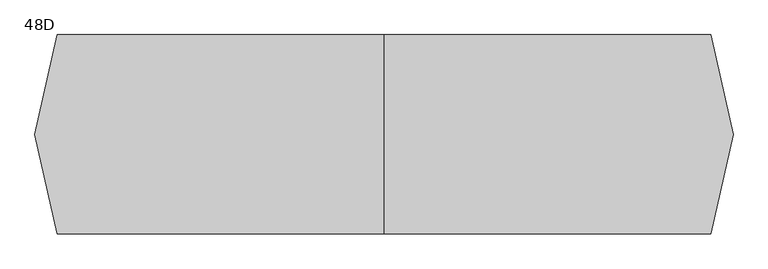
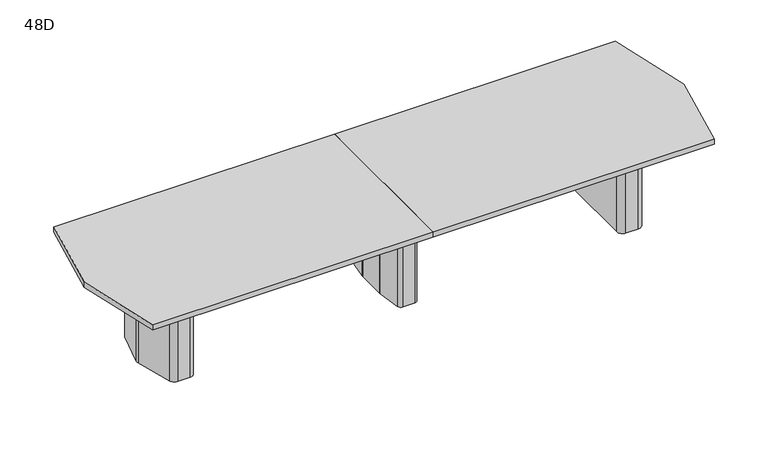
"""IFC4 building model written with IfcOpenShell, lengths in millimetres: furniture geometry, Coalesse_AM_Table_Conference_ETable2_Faceted_14ft_ThreeBase : 48D."""

from ifc_helpers import new_model, si_unit, frame, origin, place, context, project, spatial, polyline, circle_curve, outline, extrude, source, transform, mapped, element, save
from ifc_brep_helpers import plane_surface, cylinder_surface, revolved_surface, advanced_brep


def furniture_48d_33020ef1(model_context):
    return source(origin(), model_context, "Body", "SolidModel", [
        advanced_brep(
        [(35.71875, 206.375, 3.175), (10.31875, 231.775, 3.175), (-10.31875, 231.775, 3.175), (-35.71875, 206.375, 3.175), (-35.71875, -206.375, 3.175), (-10.31875, -231.775, 3.175), (10.31875, -231.775, 3.175), (35.71875, -206.375, 3.175), (-61.11875, 206.375, 0.0), (-10.31875, 257.175, 0.0), (10.31875, 257.175, 0.0), (61.11875, 206.375, 0.0), (61.11875, -206.375, 0.0), (10.31875, -257.175, 0.0), (-10.31875, -257.175, 0.0), (-61.11875, -206.375, 0.0), (-61.11875, -206.375, 3.175), (-61.11875, 206.375, 3.175), (-10.31875, -257.175, 3.175), (10.31875, -257.175, 3.175), (61.11875, -206.375, 3.175), (61.11875, 206.375, 3.175), (10.31875, 257.175, 3.175), (-10.31875, 257.175, 3.175), (-92.6215974, 106.2976848, 698.5), (-92.86875, 102.7629613, 698.5), (-92.86875, -102.7629613, 698.5), (-92.6215974, -106.2976848, 698.5), (-67.7988375, -282.9347235, 698.5), (-42.6459902, -304.8, 698.5), (42.6459902, -304.8, 698.5), (67.7988375, -282.9347235, 698.5), (92.6215974, -106.2976848, 698.5), (92.86875, -102.7629613, 698.5), (92.86875, 102.7629613, 698.5), (92.6215974, 106.2976848, 698.5), (67.7988375, 282.9347235, 698.5), (42.6459902, 304.8, 698.5), (-42.6459902, 304.8, 698.5), (-67.7988375, 282.9347235, 698.5), (10.31875, 231.775, 698.5), (35.71875, 206.375, 698.5), (35.71875, -206.375, 698.5), (10.31875, -231.775, 698.5), (-10.31875, -231.775, 698.5), (-35.71875, -206.375, 698.5), (-35.71875, 206.375, 698.5), (-10.31875, 231.775, 698.5), (-92.6215974, 106.2976848, 3.175), (-67.7988375, 282.9347235, 3.175), (-42.6459902, 304.8, 3.175), (42.6459902, 304.8, 3.175), (67.7988375, 282.9347235, 3.175), (92.6215974, 106.2976848, 3.175), (92.86875, 102.7629613, 3.175), (92.86875, -102.7629613, 3.175), (92.6215974, -106.2976848, 3.175), (67.7988375, -282.9347235, 3.175), (42.6459902, -304.8, 3.175), (-42.6459902, -304.8, 3.175), (-67.7988375, -282.9347235, 3.175), (-92.6215974, -106.2976848, 3.175), (-92.86875, -102.7629613, 3.175), (-92.86875, 102.7629613, 3.175)],
        [
            (0, 1, circle_curve(frame((10.31875, 206.375, 3.175), z_axis=(0.0, 0.0, 1.0), x_axis=(1.0, 0.0, 0.0)), 25.4)),
            (1, 2),
            (2, 3, circle_curve(frame((-10.31875, 206.375, 3.175), z_axis=(0.0, 0.0, 1.0), x_axis=(1.0, 0.0, 0.0)), 25.4)),
            (3, 4),
            (4, 5, circle_curve(frame((-10.31875, -206.375, 3.175), z_axis=(0.0, 0.0, 1.0), x_axis=(1.0, 0.0, 0.0)), 25.4)),
            (5, 6),
            (6, 7, circle_curve(frame((10.31875, -206.375, 3.175), z_axis=(0.0, 0.0, 1.0), x_axis=(1.0, 0.0, 0.0)), 25.4)),
            (7, 0),
            (8, 9, circle_curve(frame((-10.31875, 206.375, 0.0), z_axis=(0.0, 0.0, -1.0), x_axis=(1.0, 0.0, 0.0)), 50.8)),
            (9, 10),
            (10, 11, circle_curve(frame((10.31875, 206.375, 0.0), z_axis=(0.0, 0.0, -1.0), x_axis=(1.0, 0.0, 0.0)), 50.8)),
            (11, 12),
            (12, 13, circle_curve(frame((10.31875, -206.375, 0.0), z_axis=(0.0, 0.0, -1.0), x_axis=(1.0, 0.0, 0.0)), 50.8)),
            (13, 14),
            (14, 15, circle_curve(frame((-10.31875, -206.375, 0.0), z_axis=(0.0, 0.0, -1.0), x_axis=(1.0, 0.0, 0.0)), 50.8)),
            (15, 8),
            (15, 16),
            (16, 17),
            (17, 8),
            (14, 18),
            (18, 16, circle_curve(frame((-10.31875, -206.375, 3.175), z_axis=(0.0, 0.0, -1.0), x_axis=(1.0, 0.0, 0.0)), 50.8)),
            (13, 19),
            (19, 18),
            (12, 20),
            (20, 19, circle_curve(frame((10.31875, -206.375, 3.175), z_axis=(0.0, 0.0, -1.0), x_axis=(1.0, 0.0, 0.0)), 50.8)),
            (11, 21),
            (21, 20),
            (10, 22),
            (22, 21, circle_curve(frame((10.31875, 206.375, 3.175), z_axis=(0.0, 0.0, -1.0), x_axis=(1.0, 0.0, 0.0)), 50.8)),
            (9, 23),
            (23, 22),
            (17, 23, circle_curve(frame((-10.31875, 206.375, 3.175), z_axis=(0.0, 0.0, -1.0), x_axis=(1.0, 0.0, 0.0)), 50.8)),
            (24, 25, circle_curve(frame((-67.46875, 102.7629613, 698.5), z_axis=(0.0, 0.0, 1.0), x_axis=(1.0, 0.0, 0.0)), 25.4)),
            (25, 26),
            (26, 27, circle_curve(frame((-67.46875, -102.7629613, 698.5), z_axis=(0.0, 0.0, 1.0), x_axis=(1.0, 0.0, 0.0)), 25.4)),
            (27, 28),
            (28, 29, circle_curve(frame((-42.6459902, -279.4, 698.5), z_axis=(0.0, 0.0, 1.0), x_axis=(1.0, 0.0, 0.0)), 25.4)),
            (29, 30),
            (30, 31, circle_curve(frame((42.6459902, -279.4, 698.5), z_axis=(0.0, 0.0, 1.0), x_axis=(1.0, 0.0, 0.0)), 25.4)),
            (31, 32),
            (32, 33, circle_curve(frame((67.46875, -102.7629613, 698.5), z_axis=(0.0, 0.0, 1.0), x_axis=(1.0, 0.0, 0.0)), 25.4)),
            (33, 34),
            (34, 35, circle_curve(frame((67.46875, 102.7629613, 698.5), z_axis=(0.0, 0.0, 1.0), x_axis=(1.0, 0.0, 0.0)), 25.4)),
            (35, 36),
            (36, 37, circle_curve(frame((42.6459902, 279.4, 698.5), z_axis=(0.0, 0.0, 1.0), x_axis=(1.0, 0.0, 0.0)), 25.4)),
            (37, 38),
            (38, 39, circle_curve(frame((-42.6459902, 279.4, 698.5), z_axis=(0.0, 0.0, 1.0), x_axis=(1.0, 0.0, 0.0)), 25.4)),
            (39, 24),
            (40, 41, circle_curve(frame((10.31875, 206.375, 698.5), z_axis=(0.0, 0.0, -1.0), x_axis=(1.0, 0.0, 0.0)), 25.4)),
            (41, 42),
            (42, 43, circle_curve(frame((10.31875, -206.375, 698.5), z_axis=(0.0, 0.0, -1.0), x_axis=(1.0, 0.0, 0.0)), 25.4)),
            (43, 44),
            (44, 45, circle_curve(frame((-10.31875, -206.375, 698.5), z_axis=(0.0, 0.0, -1.0), x_axis=(1.0, 0.0, 0.0)), 25.4)),
            (45, 46),
            (46, 47, circle_curve(frame((-10.31875, 206.375, 698.5), z_axis=(0.0, 0.0, -1.0), x_axis=(1.0, 0.0, 0.0)), 25.4)),
            (47, 40),
            (48, 49),
            (49, 50, circle_curve(frame((-42.6459902, 279.4, 3.175), z_axis=(0.0, 0.0, -1.0), x_axis=(1.0, 0.0, 0.0)), 25.4)),
            (50, 51),
            (51, 52, circle_curve(frame((42.6459902, 279.4, 3.175), z_axis=(0.0, 0.0, -1.0), x_axis=(1.0, 0.0, 0.0)), 25.4)),
            (52, 53),
            (53, 54, circle_curve(frame((67.46875, 102.7629613, 3.175), z_axis=(0.0, 0.0, -1.0), x_axis=(1.0, 0.0, 0.0)), 25.4)),
            (54, 55),
            (55, 56, circle_curve(frame((67.46875, -102.7629613, 3.175), z_axis=(0.0, 0.0, -1.0), x_axis=(1.0, 0.0, 0.0)), 25.4)),
            (56, 57),
            (57, 58, circle_curve(frame((42.6459902, -279.4, 3.175), z_axis=(0.0, 0.0, -1.0), x_axis=(1.0, 0.0, 0.0)), 25.4)),
            (58, 59),
            (59, 60, circle_curve(frame((-42.6459902, -279.4, 3.175), z_axis=(0.0, 0.0, -1.0), x_axis=(1.0, 0.0, 0.0)), 25.4)),
            (60, 61),
            (61, 62, circle_curve(frame((-67.46875, -102.7629613, 3.175), z_axis=(0.0, 0.0, -1.0), x_axis=(1.0, 0.0, 0.0)), 25.4)),
            (62, 63),
            (63, 48, circle_curve(frame((-67.46875, 102.7629613, 3.175), z_axis=(0.0, 0.0, -1.0), x_axis=(1.0, 0.0, 0.0)), 25.4)),
            (24, 48),
            (63, 25),
            (62, 26),
            (61, 27),
            (60, 28),
            (59, 29),
            (58, 30),
            (57, 31),
            (56, 32),
            (55, 33),
            (54, 34),
            (53, 35),
            (52, 36),
            (51, 37),
            (50, 38),
            (49, 39),
            (40, 1),
            (0, 41),
            (7, 42),
            (6, 43),
            (5, 44),
            (4, 45),
            (3, 46),
            (2, 47),
        ],
        [
            plane_surface(frame((-61.11875, -206.375, 3.175), z_axis=(0.0, 0.0, 1.0), x_axis=(0.0, -1.0, 0.0))),
            plane_surface(frame((-61.11875, -206.375, 0.0), z_axis=(0.0, 0.0, -1.0), x_axis=(0.0, 1.0, 0.0))),
            plane_surface(frame((-61.11875, 206.375, 3.175), z_axis=(-1.0, 0.0, 0.0), x_axis=(0.0, 0.0, -1.0))),
            cylinder_surface(frame((-10.31875, -206.375, 0.0), z_axis=(0.0, 0.0, 1.0), x_axis=(1.0, 0.0, 0.0)), 50.8),
            plane_surface(frame((-10.31875, -257.175, 3.175), z_axis=(0.0, -1.0, 0.0), x_axis=(0.0, 0.0, -1.0))),
            cylinder_surface(frame((10.31875, -206.375, 0.0), z_axis=(0.0, 0.0, 1.0), x_axis=(1.0, 0.0, 0.0)), 50.8),
            plane_surface(frame((61.11875, -206.375, 3.175), z_axis=(1.0, 0.0, 0.0), x_axis=(0.0, 0.0, -1.0))),
            cylinder_surface(frame((10.31875, 206.375, 0.0), z_axis=(0.0, 0.0, 1.0), x_axis=(1.0, 0.0, 0.0)), 50.8),
            plane_surface(frame((10.31875, 257.175, 3.175), z_axis=(0.0, 1.0, 0.0), x_axis=(0.0, 0.0, -1.0))),
            cylinder_surface(frame((-10.31875, 206.375, 0.0), z_axis=(0.0, 0.0, 1.0), x_axis=(1.0, 0.0, 0.0)), 50.8),
            plane_surface(frame((-42.06875, 102.7629613, 698.5), z_axis=(0.0, 0.0, 1.0), x_axis=(0.0, 1.0, 0.0))),
            plane_surface(frame((-42.06875, 102.7629613, 3.175), z_axis=(0.0, 0.0, -1.0), x_axis=(0.0, -1.0, 0.0))),
            cylinder_surface(frame((-67.46875, 102.7629613, 3.175), z_axis=(0.0, 0.0, 1.0), x_axis=(1.0, 0.0, 0.0)), 25.4),
            plane_surface(frame((-92.86875, 102.7629613, 698.5), z_axis=(-1.0, 0.0, 0.0), x_axis=(0.0, 0.0, -1.0))),
            cylinder_surface(frame((-67.46875, -102.7629613, 3.175), z_axis=(0.0, 0.0, 1.0), x_axis=(1.0, 0.0, 0.0)), 25.4),
            plane_surface(frame((-92.6215974, -106.2976848, 698.5), z_axis=(-0.9902695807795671, -0.13916234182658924, 0.0), x_axis=(0.0, 0.0, -1.0))),
            cylinder_surface(frame((-42.6459902, -279.4, 3.175), z_axis=(0.0, 0.0, 1.0), x_axis=(1.0, 0.0, 0.0)), 25.4),
            plane_surface(frame((-42.6459902, -304.8, 698.5), z_axis=(0.0, -1.0, 0.0), x_axis=(0.0, 0.0, -1.0))),
            cylinder_surface(frame((42.6459902, -279.4, 3.175), z_axis=(0.0, 0.0, 1.0), x_axis=(1.0, 0.0, 0.0)), 25.4),
            plane_surface(frame((67.7988375, -282.9347235, 698.5), z_axis=(0.9902695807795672, -0.13916234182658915, 0.0), x_axis=(0.0, 0.0, -1.0))),
            cylinder_surface(frame((67.46875, -102.7629613, 3.175), z_axis=(0.0, 0.0, 1.0), x_axis=(1.0, 0.0, 0.0)), 25.4),
            plane_surface(frame((92.86875, -102.7629613, 698.5), z_axis=(1.0, 0.0, 0.0), x_axis=(0.0, 0.0, -1.0))),
            cylinder_surface(frame((67.46875, 102.7629613, 3.175), z_axis=(0.0, 0.0, 1.0), x_axis=(1.0, 0.0, 0.0)), 25.4),
            plane_surface(frame((92.6215974, 106.2976848, 698.5), z_axis=(0.9902695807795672, 0.1391623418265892, 0.0), x_axis=(0.0, 0.0, -1.0))),
            cylinder_surface(frame((42.6459902, 279.4, 3.175), z_axis=(0.0, 0.0, 1.0), x_axis=(1.0, 0.0, 0.0)), 25.4),
            plane_surface(frame((42.6459902, 304.8, 698.5), z_axis=(0.0, 1.0, 0.0), x_axis=(0.0, 0.0, -1.0))),
            cylinder_surface(frame((-42.6459902, 279.4, 3.175), z_axis=(0.0, 0.0, 1.0), x_axis=(1.0, 0.0, 0.0)), 25.4),
            plane_surface(frame((-67.7988375, 282.9347235, 698.5), z_axis=(-0.9902695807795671, 0.13916234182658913, 0.0), x_axis=(0.0, 0.0, -1.0))),
            revolved_surface(polyline([(35.71875, 206.375, 3.175), (35.71875, 206.375, 698.5)]), (10.31875, 206.375, 0.0), (0.0, 0.0, -1.0)),
            plane_surface(frame((35.71875, 206.375, 698.5), z_axis=(-1.0, 0.0, 0.0), x_axis=(0.0, 0.0, -1.0))),
            revolved_surface(polyline([(35.71875, -206.375, 3.175), (35.71875, -206.375, 698.5)]), (10.31875, -206.375, 0.0), (0.0, 0.0, -1.0)),
            plane_surface(frame((10.31875, -231.775, 698.5), z_axis=(0.0, 1.0, 0.0), x_axis=(0.0, 0.0, -1.0))),
            revolved_surface(polyline([(15.081249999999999, -206.375, 3.175), (15.081249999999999, -206.375, 698.5)]), (-10.31875, -206.375, 0.0), (0.0, 0.0, -1.0)),
            plane_surface(frame((-35.71875, -206.375, 698.5), z_axis=(1.0, 0.0, 0.0), x_axis=(0.0, 0.0, -1.0))),
            revolved_surface(polyline([(15.081249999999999, 206.375, 3.175), (15.081249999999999, 206.375, 698.5)]), (-10.31875, 206.375, 0.0), (0.0, 0.0, -1.0)),
            plane_surface(frame((-10.31875, 231.775, 698.5), z_axis=(0.0, -1.0, 0.0), x_axis=(0.0, 0.0, -1.0))),
        ],
        [
            (0, [[1, 2, 3, 4, 5, 6, 7, 8]]),
            (1, [[9, 10, 11, 12, 13, 14, 15, 16]]),
            (2, [[-16, 17, 18, 19]]),
            (3, [[-15, 20, 21, -17]]),
            (4, [[-14, 22, 23, -20]]),
            (5, [[-13, 24, 25, -22]]),
            (6, [[-12, 26, 27, -24]]),
            (7, [[-11, 28, 29, -26]]),
            (8, [[-10, 30, 31, -28]]),
            (9, [[-9, -19, 32, -30]]),
            (10, [[33, 34, 35, 36, 37, 38, 39, 40, 41, 42, 43, 44, 45, 46, 47, 48], [49, 50, 51, 52, 53, 54, 55, 56]]),
            (11, [[57, 58, 59, 60, 61, 62, 63, 64, 65, 66, 67, 68, 69, 70, 71, 72], [-18, -21, -23, -25, -27, -29, -31, -32]]),
            (12, [[-33, 73, -72, 74]]),
            (13, [[-34, -74, -71, 75]]),
            (14, [[-35, -75, -70, 76]]),
            (15, [[-36, -76, -69, 77]]),
            (16, [[-37, -77, -68, 78]]),
            (17, [[-38, -78, -67, 79]]),
            (18, [[-39, -79, -66, 80]]),
            (19, [[-40, -80, -65, 81]]),
            (20, [[-41, -81, -64, 82]]),
            (21, [[-42, -82, -63, 83]]),
            (22, [[-43, -83, -62, 84]]),
            (23, [[-44, -84, -61, 85]]),
            (24, [[-45, -85, -60, 86]]),
            (25, [[-46, -86, -59, 87]]),
            (26, [[-47, -87, -58, 88]]),
            (27, [[-48, -88, -57, -73]]),
            (28, [[-49, 89, -1, 90]]),
            (29, [[-50, -90, -8, 91]]),
            (30, [[-51, -91, -7, 92]]),
            (31, [[-52, -92, -6, 93]]),
            (32, [[-53, -93, -5, 94]]),
            (33, [[-54, -94, -4, 95]]),
            (34, [[-55, -95, -3, 96]]),
            (35, [[-56, -96, -2, -89]]),
        ],
    ),
        advanced_brep(
        [(1675.024548, 274.2093613, 698.5), (1635.1579246, 304.8, 698.5), (1546.225, 304.8, 698.5), (1504.95, 263.525, 698.5), (1504.95, -263.525, 698.5), (1546.225, -304.8, 698.5), (1635.1579246, -304.8, 698.5), (1675.024548, -274.2093613, 698.5), (1745.6503901, -10.6333708, 698.5), (1745.6503901, 10.6333708, 698.5), (1543.05, -206.375, 698.5), (1543.05, 206.375, 698.5), (1568.45, 231.775, 698.5), (1627.4608422, 231.775, 698.5), (1651.995338, 212.9490792, 698.5), (1690.6875, 68.54974, 698.5), (1690.6875, -68.54974, 698.5), (1651.995338, -212.9490792, 698.5), (1627.4608422, -231.775, 698.5), (1568.45, -231.775, 698.5), (1675.024548, 274.2093613, 3.175), (1745.6503901, 10.6333708, 3.175), (1745.6503901, -10.6333708, 3.175), (1675.024548, -274.2093613, 3.175), (1635.1579246, -304.8, 3.175), (1546.225, -304.8, 3.175), (1504.95, -263.525, 3.175), (1504.95, 263.525, 3.175), (1546.225, 304.8, 3.175), (1635.1579246, 304.8, 3.175), (1664.2625859, 216.2361187, 3.175), (1627.4608422, 244.475, 3.175), (1568.45, 244.475, 3.175), (1530.35, 206.375, 3.175), (1530.35, -206.375, 3.175), (1568.45, -244.475, 3.175), (1627.4608422, -244.475, 3.175), (1664.2625859, -216.2361187, 3.175), (1703.3875, -70.2217466, 3.175), (1703.3875, 70.2217466, 3.175), (1568.45, -231.775, 3.175), (1543.05, -206.375, 3.175), (1627.4608422, -231.775, 3.175), (1651.995338, -212.9490792, 3.175), (1690.6875, -68.54974, 3.175), (1690.6875, 68.54974, 3.175), (1651.995338, 212.9490792, 3.175), (1627.4608422, 231.775, 3.175), (1568.45, 231.775, 3.175), (1543.05, 206.375, 3.175), (1664.2625859, 216.2361187, 0.0), (1703.3875, 70.2217466, 0.0), (1703.3875, -70.2217466, 0.0), (1664.2625859, -216.2361187, 0.0), (1627.4608422, -244.475, 0.0), (1568.45, -244.475, 0.0), (1530.35, -206.375, 0.0), (1530.35, 206.375, 0.0), (1568.45, 244.475, 0.0), (1627.4608422, 244.475, 0.0)],
        [
            (0, 1, circle_curve(frame((1635.1579246, 263.5270004, 698.5), z_axis=(0.0, 0.0, 1.0), x_axis=(-1.0, 0.0, 0.0)), 41.2729996)),
            (1, 2),
            (2, 3, circle_curve(frame((1546.225, 263.525, 698.5), z_axis=(0.0, 0.0, 1.0), x_axis=(-1.0, 0.0, 0.0)), 41.275)),
            (3, 4),
            (4, 5, circle_curve(frame((1546.225, -263.525, 698.5), z_axis=(0.0, 0.0, 1.0), x_axis=(-1.0, 0.0, 0.0)), 41.275)),
            (5, 6),
            (6, 7, circle_curve(frame((1635.1579246, -263.5270004, 698.5), z_axis=(0.0, 0.0, 1.0), x_axis=(-1.0, 0.0, 0.0)), 41.2729996)),
            (7, 8),
            (8, 9, circle_curve(frame((1705.9665979, 0.0, 698.5), z_axis=(0.0, 0.0, 1.0), x_axis=(-1.0, 0.0, 0.0)), 41.0837187)),
            (9, 0),
            (10, 11),
            (11, 12, circle_curve(frame((1568.45, 206.375, 698.5), z_axis=(0.0, 0.0, -1.0), x_axis=(-1.0, 0.0, 0.0)), 25.4)),
            (12, 13),
            (13, 14, circle_curve(frame((1627.4608422, 206.375, 698.5), z_axis=(0.0, 0.0, -1.0), x_axis=(-1.0, 0.0, 0.0)), 25.4)),
            (14, 15),
            (15, 16),
            (16, 17),
            (17, 18, circle_curve(frame((1627.4608422, -206.375, 698.5), z_axis=(0.0, 0.0, -1.0), x_axis=(-1.0, 0.0, 0.0)), 25.4)),
            (18, 19),
            (19, 10, circle_curve(frame((1568.45, -206.375, 698.5), z_axis=(0.0, 0.0, -1.0), x_axis=(-1.0, 0.0, 0.0)), 25.4)),
            (20, 21),
            (21, 22, circle_curve(frame((1705.9665979, 0.0, 3.175), z_axis=(0.0, 0.0, -1.0), x_axis=(-1.0, 0.0, 0.0)), 41.0837187)),
            (22, 23),
            (23, 24, circle_curve(frame((1635.1579246, -263.5270004, 3.175), z_axis=(0.0, 0.0, -1.0), x_axis=(-1.0, 0.0, 0.0)), 41.2729996)),
            (24, 25),
            (25, 26, circle_curve(frame((1546.225, -263.525, 3.175), z_axis=(0.0, 0.0, -1.0), x_axis=(-1.0, 0.0, 0.0)), 41.275)),
            (26, 27),
            (27, 28, circle_curve(frame((1546.225, 263.525, 3.175), z_axis=(0.0, 0.0, -1.0), x_axis=(-1.0, 0.0, 0.0)), 41.275)),
            (28, 29),
            (29, 20, circle_curve(frame((1635.1579246, 263.5270004, 3.175), z_axis=(0.0, 0.0, -1.0), x_axis=(-1.0, 0.0, 0.0)), 41.2729996)),
            (30, 31, circle_curve(frame((1627.4608422, 206.375, 3.175), z_axis=(0.0, 0.0, 1.0), x_axis=(-1.0, 0.0, 0.0)), 38.1)),
            (31, 32),
            (32, 33, circle_curve(frame((1568.45, 206.375, 3.175), z_axis=(0.0, 0.0, 1.0), x_axis=(-1.0, 0.0, 0.0)), 38.1)),
            (33, 34),
            (34, 35, circle_curve(frame((1568.45, -206.375, 3.175), z_axis=(0.0, 0.0, 1.0), x_axis=(-1.0, 0.0, 0.0)), 38.1)),
            (35, 36),
            (36, 37, circle_curve(frame((1627.4608422, -206.375, 3.175), z_axis=(0.0, 0.0, 1.0), x_axis=(-1.0, 0.0, 0.0)), 38.1)),
            (37, 38),
            (38, 39),
            (39, 30),
            (9, 21),
            (20, 0),
            (8, 22),
            (7, 23),
            (6, 24),
            (5, 25),
            (4, 26),
            (3, 27),
            (2, 28),
            (1, 29),
            (19, 40),
            (40, 41, circle_curve(frame((1568.45, -206.375, 3.175), z_axis=(0.0, 0.0, -1.0), x_axis=(-1.0, 0.0, 0.0)), 25.4)),
            (41, 10),
            (18, 42),
            (42, 40),
            (17, 43),
            (43, 42, circle_curve(frame((1627.4608422, -206.375, 3.175), z_axis=(0.0, 0.0, -1.0), x_axis=(-1.0, 0.0, 0.0)), 25.4)),
            (16, 44),
            (44, 43),
            (15, 45),
            (45, 44),
            (14, 46),
            (46, 45),
            (13, 47),
            (47, 46, circle_curve(frame((1627.4608422, 206.375, 3.175), z_axis=(0.0, 0.0, -1.0), x_axis=(-1.0, 0.0, 0.0)), 25.4)),
            (12, 48),
            (48, 47),
            (11, 49),
            (49, 48, circle_curve(frame((1568.45, 206.375, 3.175), z_axis=(0.0, 0.0, -1.0), x_axis=(-1.0, 0.0, 0.0)), 25.4)),
            (41, 49),
            (50, 51),
            (51, 52),
            (52, 53),
            (53, 54, circle_curve(frame((1627.4608422, -206.375, 0.0), z_axis=(0.0, 0.0, -1.0), x_axis=(-1.0, 0.0, 0.0)), 38.1)),
            (54, 55),
            (55, 56, circle_curve(frame((1568.45, -206.375, 0.0), z_axis=(0.0, 0.0, -1.0), x_axis=(-1.0, 0.0, 0.0)), 38.1)),
            (56, 57),
            (57, 58, circle_curve(frame((1568.45, 206.375, 0.0), z_axis=(0.0, 0.0, -1.0), x_axis=(-1.0, 0.0, 0.0)), 38.1)),
            (58, 59),
            (59, 50, circle_curve(frame((1627.4608422, 206.375, 0.0), z_axis=(0.0, 0.0, -1.0), x_axis=(-1.0, 0.0, 0.0)), 38.1)),
            (50, 30),
            (39, 51),
            (38, 52),
            (37, 53),
            (36, 54),
            (35, 55),
            (34, 56),
            (33, 57),
            (32, 58),
            (31, 59),
        ],
        [
            plane_surface(frame((1745.6374275, 10.6817473, 698.5), z_axis=(0.0, 0.0, 1.0000000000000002), x_axis=(0.25882201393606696, -0.9659250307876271, 0.0))),
            plane_surface(frame((1745.6374275, 10.6817473, 3.175), z_axis=(0.0, 0.0, -1.0000000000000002), x_axis=(-0.25882201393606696, 0.9659250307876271, 0.0))),
            plane_surface(frame((1675.024548, 274.2093613, 698.5), z_axis=(0.9659250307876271, 0.25882201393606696, 0.0), x_axis=(0.0, 0.0, -1.0))),
            cylinder_surface(frame((1705.9665979, 0.0, 3.175), z_axis=(0.0, 0.0, 1.0), x_axis=(-1.0, 0.0, 0.0)), 41.0837187),
            plane_surface(frame((1745.6503901, -10.6333708, 698.5), z_axis=(0.9659250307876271, -0.2588220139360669, 0.0), x_axis=(0.0, 0.0, -1.0))),
            cylinder_surface(frame((1635.1579246, -263.5270004, 3.175), z_axis=(0.0, 0.0, 1.0), x_axis=(-1.0, 0.0, 0.0)), 41.2729996),
            plane_surface(frame((1635.1579246, -304.8, 698.5), z_axis=(0.0, -1.0, 0.0), x_axis=(0.0, 0.0, -1.0))),
            cylinder_surface(frame((1546.225, -263.525, 3.175), z_axis=(0.0, 0.0, 1.0), x_axis=(-1.0, 0.0, 0.0)), 41.275),
            plane_surface(frame((1504.95, -263.525, 698.5), z_axis=(-1.0, 0.0, 0.0), x_axis=(0.0, 0.0, -1.0))),
            cylinder_surface(frame((1546.225, 263.525, 3.175), z_axis=(0.0, 0.0, 1.0), x_axis=(-1.0, 0.0, 0.0)), 41.275),
            plane_surface(frame((1546.225, 304.8, 698.5), z_axis=(0.0, 1.0, 0.0), x_axis=(0.0, 0.0, -1.0))),
            cylinder_surface(frame((1635.1579246, 263.5270004, 3.175), z_axis=(0.0, 0.0, 1.0), x_axis=(-1.0, 0.0, 0.0)), 41.2729996),
            revolved_surface(polyline([(1543.05, -206.375, 3.175), (1543.05, -206.375, 698.5)]), (1568.45, -206.375, 0.0), (0.0, 0.0, -1.0)),
            plane_surface(frame((1568.45, -231.775, 698.5), z_axis=(0.0, 1.0, 0.0), x_axis=(0.0, 0.0, -1.0))),
            revolved_surface(polyline([(1602.0608421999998, -206.375, 3.175), (1602.0608421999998, -206.375, 698.5)]), (1627.4608422, -206.375, 0.0), (0.0, 0.0, -1.0)),
            plane_surface(frame((1651.995338, -212.9490792, 698.5), z_axis=(-0.9659250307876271, 0.2588220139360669, 0.0), x_axis=(0.0, 0.0, -1.0))),
            plane_surface(frame((1690.6875, -68.54974, 698.5), z_axis=(-1.0, 0.0, 0.0), x_axis=(0.0, 0.0, -1.0))),
            plane_surface(frame((1690.6875, 68.54974, 698.5), z_axis=(-0.9659250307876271, -0.25882201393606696, 0.0), x_axis=(0.0, 0.0, -1.0))),
            revolved_surface(polyline([(1602.0608421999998, 206.375, 3.175), (1602.0608421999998, 206.375, 698.5)]), (1627.4608422, 206.375, 0.0), (0.0, 0.0, -1.0)),
            plane_surface(frame((1627.4608422, 231.775, 698.5), z_axis=(0.0, -1.0, 0.0), x_axis=(0.0, 0.0, -1.0))),
            revolved_surface(polyline([(1543.05, 206.375, 3.175), (1543.05, 206.375, 698.5)]), (1568.45, 206.375, 0.0), (0.0, 0.0, -1.0)),
            plane_surface(frame((1543.05, 206.375, 698.5), z_axis=(1.0, 0.0, 0.0), x_axis=(0.0, 0.0, -1.0))),
            plane_surface(frame((1702.9547479, 71.8367796, 3.175), z_axis=(0.0, 0.0, 1.0), x_axis=(0.25882201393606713, -0.965925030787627, 0.0))),
            plane_surface(frame((1702.9547479, 71.8367796, 0.0), z_axis=(0.0, 0.0, -1.0), x_axis=(-0.25882201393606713, 0.965925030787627, 0.0))),
            plane_surface(frame((1664.2625859, 216.2361187, 3.175), z_axis=(0.965925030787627, 0.25882201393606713, 0.0), x_axis=(0.0, 0.0, -1.0))),
            plane_surface(frame((1703.3875, 70.2217466, 3.175), z_axis=(1.0, 0.0, 0.0), x_axis=(0.0, 0.0, -1.0))),
            plane_surface(frame((1703.3875, -70.2217466, 3.175), z_axis=(0.9659250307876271, -0.2588220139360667, 0.0), x_axis=(0.0, 0.0, -1.0))),
            cylinder_surface(frame((1627.4608422, -206.375, 0.0), z_axis=(0.0, 0.0, 1.0), x_axis=(-1.0, 0.0, 0.0)), 38.1),
            plane_surface(frame((1627.4608422, -244.475, 3.175), z_axis=(0.0, -1.0, 0.0), x_axis=(0.0, 0.0, -1.0))),
            cylinder_surface(frame((1568.45, -206.375, 0.0), z_axis=(0.0, 0.0, 1.0), x_axis=(-1.0, 0.0, 0.0)), 38.1),
            plane_surface(frame((1530.35, -206.375, 3.175), z_axis=(-1.0, 0.0, 0.0), x_axis=(0.0, 0.0, -1.0))),
            cylinder_surface(frame((1568.45, 206.375, 0.0), z_axis=(0.0, 0.0, 1.0), x_axis=(-1.0, 0.0, 0.0)), 38.1),
            plane_surface(frame((1568.45, 244.475, 3.175), z_axis=(0.0, 1.0, 0.0), x_axis=(0.0, 0.0, -1.0))),
            cylinder_surface(frame((1627.4608422, 206.375, 0.0), z_axis=(0.0, 0.0, 1.0), x_axis=(-1.0, 0.0, 0.0)), 38.1),
        ],
        [
            (0, [[1, 2, 3, 4, 5, 6, 7, 8, 9, 10], [11, 12, 13, 14, 15, 16, 17, 18, 19, 20]]),
            (1, [[21, 22, 23, 24, 25, 26, 27, 28, 29, 30], [31, 32, 33, 34, 35, 36, 37, 38, 39, 40]]),
            (2, [[41, -21, 42, -10]]),
            (3, [[43, -22, -41, -9]]),
            (4, [[44, -23, -43, -8]]),
            (5, [[45, -24, -44, -7]]),
            (6, [[46, -25, -45, -6]]),
            (7, [[47, -26, -46, -5]]),
            (8, [[48, -27, -47, -4]]),
            (9, [[49, -28, -48, -3]]),
            (10, [[50, -29, -49, -2]]),
            (11, [[-42, -30, -50, -1]]),
            (12, [[51, 52, 53, -20]]),
            (13, [[54, 55, -51, -19]]),
            (14, [[56, 57, -54, -18]]),
            (15, [[58, 59, -56, -17]]),
            (16, [[60, 61, -58, -16]]),
            (17, [[62, 63, -60, -15]]),
            (18, [[64, 65, -62, -14]]),
            (19, [[66, 67, -64, -13]]),
            (20, [[68, 69, -66, -12]]),
            (21, [[-53, 70, -68, -11]]),
            (22, [[-55, -57, -59, -61, -63, -65, -67, -69, -70, -52]]),
            (23, [[71, 72, 73, 74, 75, 76, 77, 78, 79, 80]]),
            (24, [[81, -40, 82, -71]]),
            (25, [[-82, -39, 83, -72]]),
            (26, [[-83, -38, 84, -73]]),
            (27, [[-84, -37, 85, -74]]),
            (28, [[-85, -36, 86, -75]]),
            (29, [[-86, -35, 87, -76]]),
            (30, [[-87, -34, 88, -77]]),
            (31, [[-88, -33, 89, -78]]),
            (32, [[-89, -32, 90, -79]]),
            (33, [[-90, -31, -81, -80]]),
        ],
    ),
        advanced_brep(
        [(-1686.137048, 274.2093613, 698.5), (-1756.7628901, 10.6333708, 698.5), (-1756.7628901, -10.6333708, 698.5), (-1686.137048, -274.2093613, 698.5), (-1646.2704246, -304.8, 698.5), (-1557.3375, -304.8, 698.5), (-1516.0625, -263.525, 698.5), (-1516.0625, 263.525, 698.5), (-1557.3375, 304.8, 698.5), (-1646.2704246, 304.8, 698.5), (-1554.1625, -206.375, 698.5), (-1579.5625, -231.775, 698.5), (-1638.5733422, -231.775, 698.5), (-1663.107838, -212.9490792, 698.5), (-1701.8, -68.54974, 698.5), (-1701.8, 68.54974, 698.5), (-1663.107838, 212.9490792, 698.5), (-1638.5733422, 231.775, 698.5), (-1579.5625, 231.775, 698.5), (-1554.1625, 206.375, 698.5), (-1686.137048, 274.2093613, 3.175), (-1646.2704246, 304.8, 3.175), (-1557.3375, 304.8, 3.175), (-1516.0625, 263.525, 3.175), (-1516.0625, -263.525, 3.175), (-1557.3375, -304.8, 3.175), (-1646.2704246, -304.8, 3.175), (-1686.137048, -274.2093613, 3.175), (-1756.7628901, -10.6333708, 3.175), (-1756.7628901, 10.6333708, 3.175), (-1675.3750859, 216.2361187, 3.175), (-1714.5, 70.2217466, 3.175), (-1714.5, -70.2217466, 3.175), (-1675.3750859, -216.2361187, 3.175), (-1638.5733422, -244.475, 3.175), (-1579.5625, -244.475, 3.175), (-1541.4625, -206.375, 3.175), (-1541.4625, 206.375, 3.175), (-1579.5625, 244.475, 3.175), (-1638.5733422, 244.475, 3.175), (-1554.1625, -206.375, 3.175), (-1579.5625, -231.775, 3.175), (-1638.5733422, -231.775, 3.175), (-1663.107838, -212.9490792, 3.175), (-1701.8, -68.54974, 3.175), (-1701.8, 68.54974, 3.175), (-1663.107838, 212.9490792, 3.175), (-1638.5733422, 231.775, 3.175), (-1579.5625, 231.775, 3.175), (-1554.1625, 206.375, 3.175), (-1675.3750859, 216.2361187, 0.0), (-1638.5733422, 244.475, 0.0), (-1579.5625, 244.475, 0.0), (-1541.4625, 206.375, 0.0), (-1541.4625, -206.375, 0.0), (-1579.5625, -244.475, 0.0), (-1638.5733422, -244.475, 0.0), (-1675.3750859, -216.2361187, 0.0), (-1714.5, -70.2217466, 0.0), (-1714.5, 70.2217466, 0.0)],
        [
            (0, 1),
            (1, 2, circle_curve(frame((-1717.0790979, 0.0, 698.5), z_axis=(0.0, 0.0, 1.0), x_axis=(1.0, 0.0, 0.0)), 41.0837187)),
            (2, 3),
            (3, 4, circle_curve(frame((-1646.2704246, -263.5270004, 698.5), z_axis=(0.0, 0.0, 1.0), x_axis=(1.0, 0.0, 0.0)), 41.2729996)),
            (4, 5),
            (5, 6, circle_curve(frame((-1557.3375, -263.525, 698.5), z_axis=(0.0, 0.0, 1.0), x_axis=(1.0, 0.0, 0.0)), 41.275)),
            (6, 7),
            (7, 8, circle_curve(frame((-1557.3375, 263.525, 698.5), z_axis=(0.0, 0.0, 1.0), x_axis=(1.0, 0.0, 0.0)), 41.275)),
            (8, 9),
            (9, 0, circle_curve(frame((-1646.2704246, 263.5270004, 698.5), z_axis=(0.0, 0.0, 1.0), x_axis=(1.0, 0.0, 0.0)), 41.2729996)),
            (10, 11, circle_curve(frame((-1579.5625, -206.375, 698.5), z_axis=(0.0, 0.0, -1.0), x_axis=(1.0, 0.0, 0.0)), 25.4)),
            (11, 12),
            (12, 13, circle_curve(frame((-1638.5733422, -206.375, 698.5), z_axis=(0.0, 0.0, -1.0), x_axis=(1.0, 0.0, 0.0)), 25.4)),
            (13, 14),
            (14, 15),
            (15, 16),
            (16, 17, circle_curve(frame((-1638.5733422, 206.375, 698.5), z_axis=(0.0, 0.0, -1.0), x_axis=(1.0, 0.0, 0.0)), 25.4)),
            (17, 18),
            (18, 19, circle_curve(frame((-1579.5625, 206.375, 698.5), z_axis=(0.0, 0.0, -1.0), x_axis=(1.0, 0.0, 0.0)), 25.4)),
            (19, 10),
            (20, 21, circle_curve(frame((-1646.2704246, 263.5270004, 3.175), z_axis=(0.0, 0.0, -1.0), x_axis=(1.0, 0.0, 0.0)), 41.2729996)),
            (21, 22),
            (22, 23, circle_curve(frame((-1557.3375, 263.525, 3.175), z_axis=(0.0, 0.0, -1.0), x_axis=(1.0, 0.0, 0.0)), 41.275)),
            (23, 24),
            (24, 25, circle_curve(frame((-1557.3375, -263.525, 3.175), z_axis=(0.0, 0.0, -1.0), x_axis=(1.0, 0.0, 0.0)), 41.275)),
            (25, 26),
            (26, 27, circle_curve(frame((-1646.2704246, -263.5270004, 3.175), z_axis=(0.0, 0.0, -1.0), x_axis=(1.0, 0.0, 0.0)), 41.2729996)),
            (27, 28),
            (28, 29, circle_curve(frame((-1717.0790979, 0.0, 3.175), z_axis=(0.0, 0.0, -1.0), x_axis=(1.0, 0.0, 0.0)), 41.0837187)),
            (29, 20),
            (30, 31),
            (31, 32),
            (32, 33),
            (33, 34, circle_curve(frame((-1638.5733422, -206.375, 3.175), z_axis=(0.0, 0.0, 1.0), x_axis=(1.0, 0.0, 0.0)), 38.1)),
            (34, 35),
            (35, 36, circle_curve(frame((-1579.5625, -206.375, 3.175), z_axis=(0.0, 0.0, 1.0), x_axis=(1.0, 0.0, 0.0)), 38.1)),
            (36, 37),
            (37, 38, circle_curve(frame((-1579.5625, 206.375, 3.175), z_axis=(0.0, 0.0, 1.0), x_axis=(1.0, 0.0, 0.0)), 38.1)),
            (38, 39),
            (39, 30, circle_curve(frame((-1638.5733422, 206.375, 3.175), z_axis=(0.0, 0.0, 1.0), x_axis=(1.0, 0.0, 0.0)), 38.1)),
            (0, 20),
            (29, 1),
            (28, 2),
            (27, 3),
            (26, 4),
            (25, 5),
            (24, 6),
            (23, 7),
            (22, 8),
            (21, 9),
            (10, 40),
            (40, 41, circle_curve(frame((-1579.5625, -206.375, 3.175), z_axis=(0.0, 0.0, -1.0), x_axis=(1.0, 0.0, 0.0)), 25.4)),
            (41, 11),
            (41, 42),
            (42, 12),
            (42, 43, circle_curve(frame((-1638.5733422, -206.375, 3.175), z_axis=(0.0, 0.0, -1.0), x_axis=(1.0, 0.0, 0.0)), 25.4)),
            (43, 13),
            (43, 44),
            (44, 14),
            (44, 45),
            (45, 15),
            (45, 46),
            (46, 16),
            (46, 47, circle_curve(frame((-1638.5733422, 206.375, 3.175), z_axis=(0.0, 0.0, -1.0), x_axis=(1.0, 0.0, 0.0)), 25.4)),
            (47, 17),
            (47, 48),
            (48, 18),
            (48, 49, circle_curve(frame((-1579.5625, 206.375, 3.175), z_axis=(0.0, 0.0, -1.0), x_axis=(1.0, 0.0, 0.0)), 25.4)),
            (49, 19),
            (49, 40),
            (50, 51, circle_curve(frame((-1638.5733422, 206.375, 0.0), z_axis=(0.0, 0.0, -1.0), x_axis=(1.0, 0.0, 0.0)), 38.1)),
            (51, 52),
            (52, 53, circle_curve(frame((-1579.5625, 206.375, 0.0), z_axis=(0.0, 0.0, -1.0), x_axis=(1.0, 0.0, 0.0)), 38.1)),
            (53, 54),
            (54, 55, circle_curve(frame((-1579.5625, -206.375, 0.0), z_axis=(0.0, 0.0, -1.0), x_axis=(1.0, 0.0, 0.0)), 38.1)),
            (55, 56),
            (56, 57, circle_curve(frame((-1638.5733422, -206.375, 0.0), z_axis=(0.0, 0.0, -1.0), x_axis=(1.0, 0.0, 0.0)), 38.1)),
            (57, 58),
            (58, 59),
            (59, 50),
            (59, 31),
            (30, 50),
            (58, 32),
            (57, 33),
            (56, 34),
            (55, 35),
            (54, 36),
            (53, 37),
            (52, 38),
            (51, 39),
        ],
        [
            plane_surface(frame((-1756.7499275, 10.6817473, 698.5), z_axis=(0.0, 0.0, 1.0000000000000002), x_axis=(-0.25882201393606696, -0.9659250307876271, 0.0))),
            plane_surface(frame((-1756.7499275, 10.6817473, 3.175), z_axis=(0.0, 0.0, -1.0000000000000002), x_axis=(0.25882201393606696, 0.9659250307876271, 0.0))),
            plane_surface(frame((-1686.137048, 274.2093613, 698.5), z_axis=(-0.9659250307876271, 0.25882201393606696, 0.0), x_axis=(0.0, 0.0, -1.0))),
            cylinder_surface(frame((-1717.0790979, 0.0, 3.175), z_axis=(0.0, 0.0, 1.0), x_axis=(1.0, 0.0, 0.0)), 41.0837187),
            plane_surface(frame((-1756.7628901, -10.6333708, 698.5), z_axis=(-0.9659250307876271, -0.2588220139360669, 0.0), x_axis=(0.0, 0.0, -1.0))),
            cylinder_surface(frame((-1646.2704246, -263.5270004, 3.175), z_axis=(0.0, 0.0, 1.0), x_axis=(1.0, 0.0, 0.0)), 41.2729996),
            plane_surface(frame((-1646.2704246, -304.8, 698.5), z_axis=(0.0, -1.0, 0.0), x_axis=(0.0, 0.0, -1.0))),
            cylinder_surface(frame((-1557.3375, -263.525, 3.175), z_axis=(0.0, 0.0, 1.0), x_axis=(1.0, 0.0, 0.0)), 41.275),
            plane_surface(frame((-1516.0625, -263.525, 698.5), z_axis=(1.0, 0.0, 0.0), x_axis=(0.0, 0.0, -1.0))),
            cylinder_surface(frame((-1557.3375, 263.525, 3.175), z_axis=(0.0, 0.0, 1.0), x_axis=(1.0, 0.0, 0.0)), 41.275),
            plane_surface(frame((-1557.3375, 304.8, 698.5), z_axis=(0.0, 1.0, 0.0), x_axis=(0.0, 0.0, -1.0))),
            cylinder_surface(frame((-1646.2704246, 263.5270004, 3.175), z_axis=(0.0, 0.0, 1.0), x_axis=(1.0, 0.0, 0.0)), 41.2729996),
            revolved_surface(polyline([(-1554.1625, -206.375, 3.175), (-1554.1625, -206.375, 698.5)]), (-1579.5625, -206.375, 0.0), (0.0, 0.0, -1.0)),
            plane_surface(frame((-1579.5625, -231.775, 698.5), z_axis=(0.0, 1.0, 0.0), x_axis=(0.0, 0.0, -1.0))),
            revolved_surface(polyline([(-1613.1733422, -206.375, 3.175), (-1613.1733422, -206.375, 698.5)]), (-1638.5733422, -206.375, 0.0), (0.0, 0.0, -1.0)),
            plane_surface(frame((-1663.107838, -212.9490792, 698.5), z_axis=(0.9659250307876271, 0.2588220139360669, 0.0), x_axis=(0.0, 0.0, -1.0))),
            plane_surface(frame((-1701.8, -68.54974, 698.5), z_axis=(1.0, 0.0, 0.0), x_axis=(0.0, 0.0, -1.0))),
            plane_surface(frame((-1701.8, 68.54974, 698.5), z_axis=(0.9659250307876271, -0.25882201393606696, 0.0), x_axis=(0.0, 0.0, -1.0))),
            revolved_surface(polyline([(-1613.1733422, 206.375, 3.175), (-1613.1733422, 206.375, 698.5)]), (-1638.5733422, 206.375, 0.0), (0.0, 0.0, -1.0)),
            plane_surface(frame((-1638.5733422, 231.775, 698.5), z_axis=(0.0, -1.0, 0.0), x_axis=(0.0, 0.0, -1.0))),
            revolved_surface(polyline([(-1554.1625, 206.375, 3.175), (-1554.1625, 206.375, 698.5)]), (-1579.5625, 206.375, 0.0), (0.0, 0.0, -1.0)),
            plane_surface(frame((-1554.1625, 206.375, 698.5), z_axis=(-1.0, 0.0, 0.0), x_axis=(0.0, 0.0, -1.0))),
            plane_surface(frame((-1714.0672479, 71.8367796, 3.175), z_axis=(0.0, 0.0, 1.0), x_axis=(-0.25882201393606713, -0.965925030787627, 0.0))),
            plane_surface(frame((-1714.0672479, 71.8367796, 0.0), z_axis=(0.0, 0.0, -1.0), x_axis=(0.25882201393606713, 0.965925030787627, 0.0))),
            plane_surface(frame((-1675.3750859, 216.2361187, 3.175), z_axis=(-0.965925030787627, 0.25882201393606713, 0.0), x_axis=(0.0, 0.0, -1.0))),
            plane_surface(frame((-1714.5, 70.2217466, 3.175), z_axis=(-1.0, 0.0, 0.0), x_axis=(0.0, 0.0, -1.0))),
            plane_surface(frame((-1714.5, -70.2217466, 3.175), z_axis=(-0.9659250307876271, -0.2588220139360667, 0.0), x_axis=(0.0, 0.0, -1.0))),
            cylinder_surface(frame((-1638.5733422, -206.375, 0.0), z_axis=(0.0, 0.0, 1.0), x_axis=(1.0, 0.0, 0.0)), 38.1),
            plane_surface(frame((-1638.5733422, -244.475, 3.175), z_axis=(0.0, -1.0, 0.0), x_axis=(0.0, 0.0, -1.0))),
            cylinder_surface(frame((-1579.5625, -206.375, 0.0), z_axis=(0.0, 0.0, 1.0), x_axis=(1.0, 0.0, 0.0)), 38.1),
            plane_surface(frame((-1541.4625, -206.375, 3.175), z_axis=(1.0, 0.0, 0.0), x_axis=(0.0, 0.0, -1.0))),
            cylinder_surface(frame((-1579.5625, 206.375, 0.0), z_axis=(0.0, 0.0, 1.0), x_axis=(1.0, 0.0, 0.0)), 38.1),
            plane_surface(frame((-1579.5625, 244.475, 3.175), z_axis=(0.0, 1.0, 0.0), x_axis=(0.0, 0.0, -1.0))),
            cylinder_surface(frame((-1638.5733422, 206.375, 0.0), z_axis=(0.0, 0.0, 1.0), x_axis=(1.0, 0.0, 0.0)), 38.1),
        ],
        [
            (0, [[1, 2, 3, 4, 5, 6, 7, 8, 9, 10], [11, 12, 13, 14, 15, 16, 17, 18, 19, 20]]),
            (1, [[21, 22, 23, 24, 25, 26, 27, 28, 29, 30], [31, 32, 33, 34, 35, 36, 37, 38, 39, 40]]),
            (2, [[-1, 41, -30, 42]]),
            (3, [[-2, -42, -29, 43]]),
            (4, [[-3, -43, -28, 44]]),
            (5, [[-4, -44, -27, 45]]),
            (6, [[-5, -45, -26, 46]]),
            (7, [[-6, -46, -25, 47]]),
            (8, [[-7, -47, -24, 48]]),
            (9, [[-8, -48, -23, 49]]),
            (10, [[-9, -49, -22, 50]]),
            (11, [[-10, -50, -21, -41]]),
            (12, [[-11, 51, 52, 53]]),
            (13, [[-12, -53, 54, 55]]),
            (14, [[-13, -55, 56, 57]]),
            (15, [[-14, -57, 58, 59]]),
            (16, [[-15, -59, 60, 61]]),
            (17, [[-16, -61, 62, 63]]),
            (18, [[-17, -63, 64, 65]]),
            (19, [[-18, -65, 66, 67]]),
            (20, [[-19, -67, 68, 69]]),
            (21, [[-20, -69, 70, -51]]),
            (22, [[-52, -70, -68, -66, -64, -62, -60, -58, -56, -54]]),
            (23, [[71, 72, 73, 74, 75, 76, 77, 78, 79, 80]]),
            (24, [[-80, 81, -31, 82]]),
            (25, [[-79, 83, -32, -81]]),
            (26, [[-78, 84, -33, -83]]),
            (27, [[-77, 85, -34, -84]]),
            (28, [[-76, 86, -35, -85]]),
            (29, [[-75, 87, -36, -86]]),
            (30, [[-74, 88, -37, -87]]),
            (31, [[-73, 89, -38, -88]]),
            (32, [[-72, 90, -39, -89]]),
            (33, [[-71, -82, -40, -90]]),
        ],
    ),
        extrude(outline(polyline([(1998.4541794, 609.6), (2133.6, 0.0), (1998.4541794, -609.6), (0.0, -609.6), (0.0, 609.6), (1998.4541794, 609.6)])), frame((0.0, 0.0, 698.5), z_axis=(0.0, 0.0, 1.0), x_axis=(1.0, 0.0, 0.0)), (0.0, 0.0, 1.0), 38.1),
        extrude(outline(polyline([(0.0, 609.6), (0.0, -609.6), (-1998.4541794, -609.6), (-2133.6, 0.0), (-1998.4541794, 609.6), (0.0, 609.6)])), frame((0.0, 0.0, 698.5), z_axis=(0.0, 0.0, 1.0), x_axis=(1.0, 0.0, 0.0)), (0.0, 0.0, 1.0), 38.1),
        extrude(outline(polyline([(96.8375, 698.5), (103.1875, 698.5), (103.1875, 476.25), (-103.1875, 476.25), (-103.1875, 698.5), (-96.8375, 698.5), (-96.8375, 482.6), (96.8375, 482.6), (96.8375, 698.5)])), frame((-1516.0625, 0.0, 0.0), z_axis=(1.0, 0.0, 0.0), x_axis=(0.0, 1.0, 0.0)), (0.0, 0.0, 1.0), 3021.0125),
    ])


if __name__ == "__main__":
    model = new_model("IFC4")
    model_context = context("Model", 3, world=origin())
    ifc_project = project(units=[si_unit("LENGTHUNIT", "METRE", prefix="MILLI")], contexts=[model_context])
    site = spatial("IfcSite", under=ifc_project)
    building = spatial("IfcBuilding", under=site)
    placement = place(None, origin())
    furniture_48d_shape = furniture_48d_33020ef1(model_context)
    element("IfcFurniture", 1, ObjectType="Coalesse_AM_Table_Conference_ETable2_Faceted_14ft_ThreeBase : 48D", at=placement, inside=building, context=model_context, shape_type="MappedRepresentation", body=[
        mapped(furniture_48d_shape, transform((0.0, 0.0, 0.0), x_axis=(1.0, 0.0, 0.0), y_axis=(0.0, 1.0, 0.0), z_axis=(0.0, 0.0, 1.0))),
    ])
    save(model, "model.ifc")
